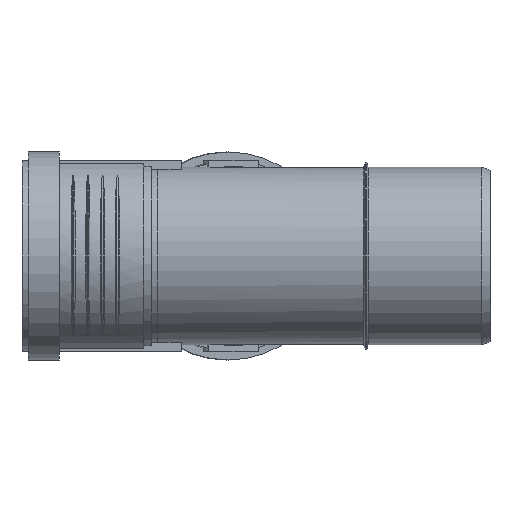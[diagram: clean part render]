
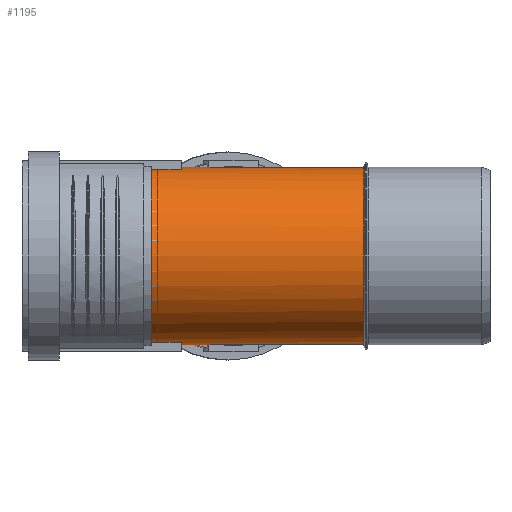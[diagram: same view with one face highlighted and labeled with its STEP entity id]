
A CAD part, left-side view. The second image highlights one B-rep face of the part: STEP entity #1195.
In plain terms, the highlighted cylindrical face has radius 45.1 mm (diameter 90.2 mm), a full revolution.
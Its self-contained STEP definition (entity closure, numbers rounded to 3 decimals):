
#138=FACE_BOUND($,#282,.T.);
#182=CYLINDRICAL_SURFACE($,#1285,45.1);
#209=FACE_OUTER_BOUND($,#281,.T.);
#281=EDGE_LOOP($,(#805));
#282=EDGE_LOOP($,(#806,#807));
#387=CIRCLE($,#1286,45.1);
#388=CIRCLE($,#1287,45.1);
#449=B_SPLINE_CURVE_WITH_KNOTS($,3,(#1995,#1996,#1997,#1998,#1999,#2000,
#2001,#2002,#2003,#2004,#2005,#2006,#2007,#2008,#2009,#2010,#2011,#2012,
#2013,#2014,#2015,#2016,#2017,#2018,#2019,#2020,#2021,#2022,#2023,#2024,
#2025,#2026,#2027,#2028,#2029,#2030,#2031,#2032,#2033,#2034,#2035,#2036,
#2037,#2038,#2039,#2040,#2041,#2042,#2043,#2044,#2045,#2046,#2047,#2048),
 .UNSPECIFIED.,.F.,.F.,(4,2,2,2,2,2,2,2,2,2,2,2,2,2,2,2,2,2,2,2,2,2,2,2,
2,2,4),(0.,1.704,3.086,3.711,4.248,
4.999,5.726,6.81,8.878,10.793,
12.337,13.5,14.195,14.805,15.577,
16.831,18.13,20.217,21.528,22.465,
23.252,23.991,24.586,25.121,25.957,
27.165,29.079),.UNSPECIFIED.);
#509=VERTEX_POINT($,#1977);
#510=VERTEX_POINT($,#1978);
#511=VERTEX_POINT($,#2050);
#632=EDGE_CURVE($,#510,#509,#449,.T.);
#633=EDGE_CURVE($,#511,#511,#387,.T.);
#634=EDGE_CURVE($,#509,#510,#388,.T.);
#805=ORIENTED_EDGE($,*,*,#633,.F.);
#806=ORIENTED_EDGE($,*,*,#634,.T.);
#807=ORIENTED_EDGE($,*,*,#632,.T.);
#1195=ADVANCED_FACE($,(#209,#138),#182,.T.);
#1285=AXIS2_PLACEMENT_3D($,#2049,#1450,#1451);
#1286=AXIS2_PLACEMENT_3D($,#2051,#1452,#1453);
#1287=AXIS2_PLACEMENT_3D($,#2052,#1454,#1455);
#1450=DIRECTION('center_axis',(0.,1.,0.));
#1451=DIRECTION('ref_axis',(-1.,0.,0.));
#1452=DIRECTION('center_axis',(0.,1.,0.));
#1453=DIRECTION('ref_axis',(-1.,0.,0.));
#1454=DIRECTION('center_axis',(0.,1.,0.));
#1455=DIRECTION('ref_axis',(-1.,0.,0.));
#1977=CARTESIAN_POINT('',(39.957,64.1,-20.915));
#1978=CARTESIAN_POINT('',(39.957,64.1,20.915));
#1995=CARTESIAN_POINT('Ctrl Pts',(39.957,64.1,20.915));
#1996=CARTESIAN_POINT('Ctrl Pts',(37.356,64.993,25.884));
#1997=CARTESIAN_POINT('Ctrl Pts',(33.854,66.188,30.288));
#1998=CARTESIAN_POINT('Ctrl Pts',(26.476,69.061,36.775));
#1999=CARTESIAN_POINT('Ctrl Pts',(23.146,70.488,38.841));
#2000=CARTESIAN_POINT('Ctrl Pts',(18.967,72.848,40.944));
#2001=CARTESIAN_POINT('Ctrl Pts',(17.662,73.677,41.518));
#2002=CARTESIAN_POINT('Ctrl Pts',(15.393,75.463,42.407));
#2003=CARTESIAN_POINT('Ctrl Pts',(14.405,76.388,42.747));
#2004=CARTESIAN_POINT('Ctrl Pts',(12.324,78.936,43.402));
#2005=CARTESIAN_POINT('Ctrl Pts',(11.44,80.578,43.629));
#2006=CARTESIAN_POINT('Ctrl Pts',(10.292,84.245,43.914));
#2007=CARTESIAN_POINT('Ctrl Pts',(10.044,86.147,43.967));
#2008=CARTESIAN_POINT('Ctrl Pts',(9.896,90.838,44.001));
#2009=CARTESIAN_POINT('Ctrl Pts',(10.202,94.236,43.94));
#2010=CARTESIAN_POINT('Ctrl Pts',(12.682,106.553,43.313));
#2011=CARTESIAN_POINT('Ctrl Pts',(16.039,116.212,42.404));
#2012=CARTESIAN_POINT('Ctrl Pts',(24.001,134.489,38.423));
#2013=CARTESIAN_POINT('Ctrl Pts',(28.208,142.543,35.629));
#2014=CARTESIAN_POINT('Ctrl Pts',(35.277,154.991,28.456));
#2015=CARTESIAN_POINT('Ctrl Pts',(38.02,159.417,24.703));
#2016=CARTESIAN_POINT('Ctrl Pts',(41.748,165.275,17.421));
#2017=CARTESIAN_POINT('Ctrl Pts',(43.117,167.351,13.845));
#2018=CARTESIAN_POINT('Ctrl Pts',(44.546,169.495,7.46));
#2019=CARTESIAN_POINT('Ctrl Pts',(44.899,170.018,4.97));
#2020=CARTESIAN_POINT('Ctrl Pts',(45.156,170.4,0.162));
#2021=CARTESIAN_POINT('Ctrl Pts',(45.107,170.328,-2.085));
#2022=CARTESIAN_POINT('Ctrl Pts',(44.623,169.608,-7.128));
#2023=CARTESIAN_POINT('Ctrl Pts',(44.096,168.824,-9.827));
#2024=CARTESIAN_POINT('Ctrl Pts',(42.193,165.947,-16.497));
#2025=CARTESIAN_POINT('Ctrl Pts',(40.425,163.249,-20.443));
#2026=CARTESIAN_POINT('Ctrl Pts',(35.801,155.794,-27.781));
#2027=CARTESIAN_POINT('Ctrl Pts',(33.163,151.353,-30.767));
#2028=CARTESIAN_POINT('Ctrl Pts',(26.428,139.184,-36.979));
#2029=CARTESIAN_POINT('Ctrl Pts',(22.226,130.762,-39.437));
#2030=CARTESIAN_POINT('Ctrl Pts',(16.439,116.768,-42.069));
#2031=CARTESIAN_POINT('Ctrl Pts',(14.378,111.118,-42.779));
#2032=CARTESIAN_POINT('Ctrl Pts',(11.645,101.513,-43.587));
#2033=CARTESIAN_POINT('Ctrl Pts',(10.632,97.124,-43.831));
#2034=CARTESIAN_POINT('Ctrl Pts',(9.829,89.513,-44.017));
#2035=CARTESIAN_POINT('Ctrl Pts',(9.942,86.944,-43.992));
#2036=CARTESIAN_POINT('Ctrl Pts',(10.596,82.98,-43.839));
#2037=CARTESIAN_POINT('Ctrl Pts',(11.18,81.164,-43.704));
#2038=CARTESIAN_POINT('Ctrl Pts',(12.911,78.13,-43.22));
#2039=CARTESIAN_POINT('Ctrl Pts',(13.871,76.957,-42.93));
#2040=CARTESIAN_POINT('Ctrl Pts',(15.961,74.965,-42.194));
#2041=CARTESIAN_POINT('Ctrl Pts',(17.041,74.143,-41.774));
#2042=CARTESIAN_POINT('Ctrl Pts',(19.871,72.265,-40.53));
#2043=CARTESIAN_POINT('Ctrl Pts',(21.685,71.31,-39.598));
#2044=CARTESIAN_POINT('Ctrl Pts',(26.007,69.255,-36.967));
#2045=CARTESIAN_POINT('Ctrl Pts',(28.498,68.26,-35.097));
#2046=CARTESIAN_POINT('Ctrl Pts',(34.445,65.991,-29.537));
#2047=CARTESIAN_POINT('Ctrl Pts',(37.577,64.917,-25.462));
#2048=CARTESIAN_POINT('Ctrl Pts',(39.957,64.1,-20.915));
#2049=CARTESIAN_POINT('Origin',(0.,120.53,0.));
#2050=CARTESIAN_POINT('',(-45.1,176.96,0.));
#2051=CARTESIAN_POINT('Origin',(0.,176.96,0.));
#2052=CARTESIAN_POINT('Origin',(0.,64.1,0.));
